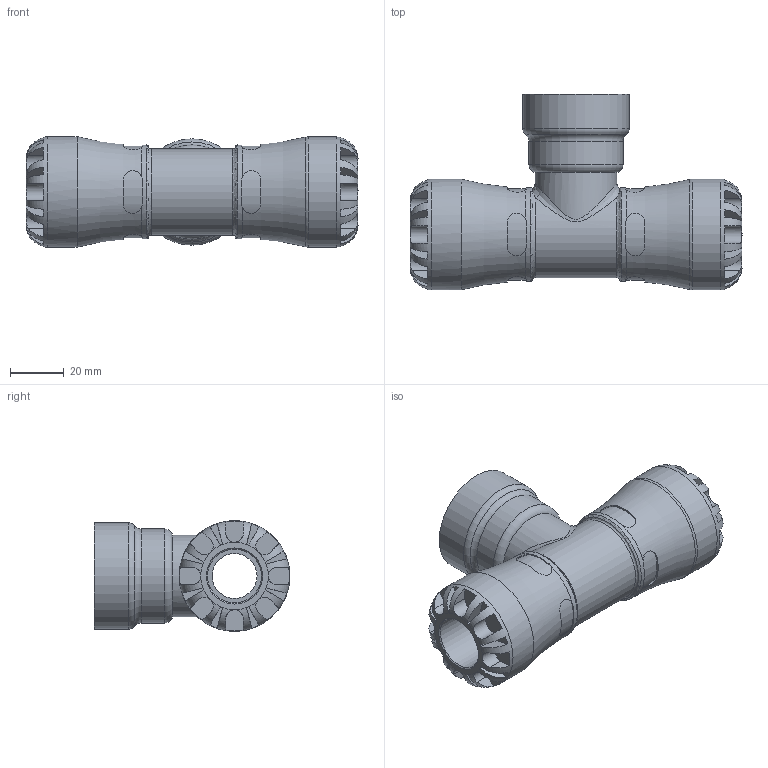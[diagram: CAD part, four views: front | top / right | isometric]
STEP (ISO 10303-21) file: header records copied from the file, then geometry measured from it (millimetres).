
FILE_DESCRIPTION(/* description */ ('PLASSON TEE WITH THREADED FEMALE OFFTAKE 20X1" SERIES 1'),/* implementation_level */ '2;1');
FILE_NAME(/* name */ 'C:\Dropbox\KIMPROJECTS-Inventor\99-16-3568-Processing\1014\101400020010_191400020010.ipt.stp',/* time_stamp */ '2017-01-30T09:06:15+02:00',/* author */ ('KIM'),/* organization */ (''),/* preprocessor_version */ 'ST-DEVELOPER v15.6',/* originating_system */ 'Autodesk Inventor 2015',/* authorisation */ '');
FILE_SCHEMA (('AUTOMOTIVE_DESIGN { 1 0 10303 214 3 1 1 }'));
Length unit declared in the file: millimetre
Products named in the file (1): 101400020010_191400020010
Bounding box: 123 x 72.5 x 41 mm (x, y, z)
Volume: 97946.4 mm3; surface area: 33832.2 mm2
Topology: 1 solids, 1 shells, 204 faces, 540 edges, 340 vertices
Faces by surface type: plane 120, cylinder 69, torus 12, cone 2, bspline 1
Full cylindrical faces by diameter (mm): 16.667 x1, 20 x2, 25.747 x1, 30.291 x2, 34.835 x1, 34.85 x2, 39.378 x1, 41 x2
Entity records: 8133 total; most frequent: CARTESIAN_POINT 3208, ORIENTED_EDGE 1002, DIRECTION 936, EDGE_CURVE 501, AXIS2_PLACEMENT_3D 387, VERTEX_POINT 326, EDGE_LOOP 235, STYLED_ITEM 205
